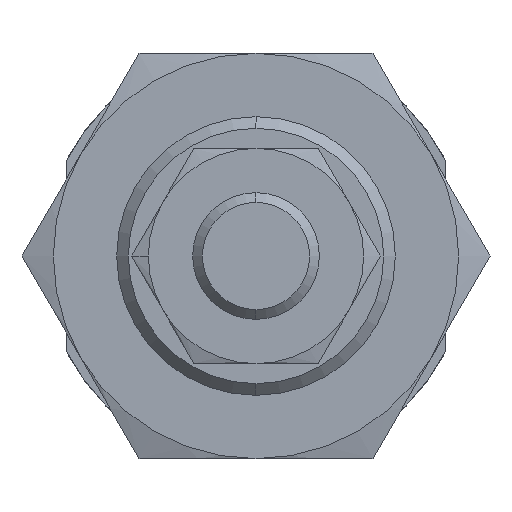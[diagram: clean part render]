
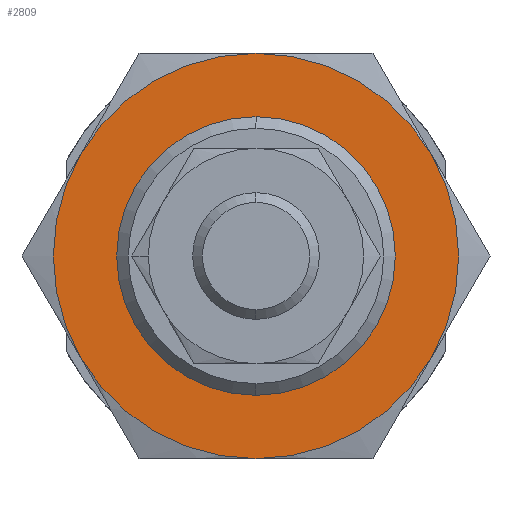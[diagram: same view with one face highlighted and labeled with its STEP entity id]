
A CAD part, left-side view. The second image highlights one B-rep face of the part: STEP entity #2809.
In plain terms, the highlighted planar face has unit normal (-1, 0, 0).
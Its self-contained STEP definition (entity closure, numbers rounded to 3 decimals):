
#14 = CARTESIAN_POINT ( 'NONE',  ( -17.5, 16., 0. ) ) ;
#37 = CARTESIAN_POINT ( 'NONE',  ( -17.5, 0., 0. ) ) ;
#50 = EDGE_CURVE ( 'NONE', #2480, #543, #4051, .T. ) ;
#129 = ORIENTED_EDGE ( 'NONE', *, *, #671, .T. ) ;
#245 = DIRECTION ( 'NONE',  ( 1., 0., 0. ) ) ;
#265 = DIRECTION ( 'NONE',  ( 0., 0., -1. ) ) ;
#277 = CARTESIAN_POINT ( 'NONE',  ( -17.5, -13.856, -8. ) ) ;
#294 = CIRCLE ( 'NONE', #367, 16. ) ;
#305 = FACE_BOUND ( 'NONE', #3795, .T. ) ;
#307 = EDGE_LOOP ( 'NONE', ( #979, #3754, #3073, #3001, #1964, #1978 ) ) ;
#351 = EDGE_CURVE ( 'NONE', #3158, #3137, #294, .T. ) ;
#356 = CIRCLE ( 'NONE', #1943, 11. ) ;
#367 = AXIS2_PLACEMENT_3D ( 'NONE', #3632, #3979, #701 ) ;
#420 = CARTESIAN_POINT ( 'NONE',  ( -17.5, 13.856, 8. ) ) ;
#440 = CARTESIAN_POINT ( 'NONE',  ( -17.5, 0., 0. ) ) ;
#455 = DIRECTION ( 'NONE',  ( 0., 0., -1. ) ) ;
#494 = AXIS2_PLACEMENT_3D ( 'NONE', #440, #1390, #3076 ) ;
#543 = VERTEX_POINT ( 'NONE', #2180 ) ;
#574 = CARTESIAN_POINT ( 'NONE',  ( -17.5, 0., 0. ) ) ;
#616 = EDGE_CURVE ( 'NONE', #3978, #2480, #674, .T. ) ;
#668 = DIRECTION ( 'NONE',  ( 1., 0., 0. ) ) ;
#671 = EDGE_CURVE ( 'NONE', #1756, #3449, #2673, .T. ) ;
#674 = CIRCLE ( 'NONE', #1575, 16. ) ;
#701 = DIRECTION ( 'NONE',  ( 0., 0., -1. ) ) ;
#922 = DIRECTION ( 'NONE',  ( 1., 0., 0. ) ) ;
#979 = ORIENTED_EDGE ( 'NONE', *, *, #616, .F. ) ;
#1005 = CARTESIAN_POINT ( 'NONE',  ( -17.5, 0., -16. ) ) ;
#1025 = AXIS2_PLACEMENT_3D ( 'NONE', #14, #1627, #1605 ) ;
#1321 = FACE_OUTER_BOUND ( 'NONE', #307, .T. ) ;
#1334 = VERTEX_POINT ( 'NONE', #1005 ) ;
#1390 = DIRECTION ( 'NONE',  ( 1., 0., 0. ) ) ;
#1432 = AXIS2_PLACEMENT_3D ( 'NONE', #3924, #1988, #4248 ) ;
#1575 = AXIS2_PLACEMENT_3D ( 'NONE', #3548, #245, #265 ) ;
#1605 = DIRECTION ( 'NONE',  ( 0., 0., 1. ) ) ;
#1613 = CARTESIAN_POINT ( 'NONE',  ( -17.5, 0., -11. ) ) ;
#1627 = DIRECTION ( 'NONE',  ( -1., 0., 0. ) ) ;
#1756 = VERTEX_POINT ( 'NONE', #3319 ) ;
#1761 = CARTESIAN_POINT ( 'NONE',  ( -17.5, 0., 0. ) ) ;
#1936 = DIRECTION ( 'NONE',  ( 0., 0., -1. ) ) ;
#1943 = AXIS2_PLACEMENT_3D ( 'NONE', #574, #922, #1936 ) ;
#1964 = ORIENTED_EDGE ( 'NONE', *, *, #2587, .F. ) ;
#1978 = ORIENTED_EDGE ( 'NONE', *, *, #50, .F. ) ;
#1988 = DIRECTION ( 'NONE',  ( 1., 0., 0. ) ) ;
#1995 = DIRECTION ( 'NONE',  ( 0., 0., -1. ) ) ;
#2133 = AXIS2_PLACEMENT_3D ( 'NONE', #3170, #2200, #3510 ) ;
#2180 = CARTESIAN_POINT ( 'NONE',  ( -17.5, 0., 16. ) ) ;
#2200 = DIRECTION ( 'NONE',  ( 1., 0., 0. ) ) ;
#2326 = ORIENTED_EDGE ( 'NONE', *, *, #2329, .T. ) ;
#2329 = EDGE_CURVE ( 'NONE', #3449, #1756, #356, .T. ) ;
#2364 = CIRCLE ( 'NONE', #494, 16. ) ;
#2480 = VERTEX_POINT ( 'NONE', #420 ) ;
#2494 = CARTESIAN_POINT ( 'NONE',  ( -17.5, 13.856, -8. ) ) ;
#2587 = EDGE_CURVE ( 'NONE', #543, #3158, #2364, .T. ) ;
#2598 = AXIS2_PLACEMENT_3D ( 'NONE', #37, #668, #1995 ) ;
#2673 = CIRCLE ( 'NONE', #2133, 11. ) ;
#2809 = ADVANCED_FACE ( 'NONE', ( #1321, #305 ), #3242, .T. ) ;
#2911 = CARTESIAN_POINT ( 'NONE',  ( -17.5, -13.856, 8. ) ) ;
#2929 = EDGE_CURVE ( 'NONE', #1334, #3978, #3634, .T. ) ;
#3001 = ORIENTED_EDGE ( 'NONE', *, *, #351, .F. ) ;
#3073 = ORIENTED_EDGE ( 'NONE', *, *, #4150, .F. ) ;
#3076 = DIRECTION ( 'NONE',  ( 0., 0., -1. ) ) ;
#3137 = VERTEX_POINT ( 'NONE', #277 ) ;
#3158 = VERTEX_POINT ( 'NONE', #2911 ) ;
#3170 = CARTESIAN_POINT ( 'NONE',  ( -17.5, 0., 0. ) ) ;
#3242 = PLANE ( 'NONE',  #1025 ) ;
#3319 = CARTESIAN_POINT ( 'NONE',  ( -17.5, 0., 11. ) ) ;
#3359 = CIRCLE ( 'NONE', #2598, 16. ) ;
#3369 = DIRECTION ( 'NONE',  ( 1., 0., 0. ) ) ;
#3449 = VERTEX_POINT ( 'NONE', #1613 ) ;
#3510 = DIRECTION ( 'NONE',  ( 0., 0., -1. ) ) ;
#3548 = CARTESIAN_POINT ( 'NONE',  ( -17.5, 0., 0. ) ) ;
#3632 = CARTESIAN_POINT ( 'NONE',  ( -17.5, 0., 0. ) ) ;
#3634 = CIRCLE ( 'NONE', #4262, 16. ) ;
#3754 = ORIENTED_EDGE ( 'NONE', *, *, #2929, .F. ) ;
#3795 = EDGE_LOOP ( 'NONE', ( #129, #2326 ) ) ;
#3924 = CARTESIAN_POINT ( 'NONE',  ( -17.5, 0., 0. ) ) ;
#3978 = VERTEX_POINT ( 'NONE', #2494 ) ;
#3979 = DIRECTION ( 'NONE',  ( 1., 0., 0. ) ) ;
#4051 = CIRCLE ( 'NONE', #1432, 16. ) ;
#4150 = EDGE_CURVE ( 'NONE', #3137, #1334, #3359, .T. ) ;
#4248 = DIRECTION ( 'NONE',  ( 0., 0., -1. ) ) ;
#4262 = AXIS2_PLACEMENT_3D ( 'NONE', #1761, #3369, #455 ) ;
